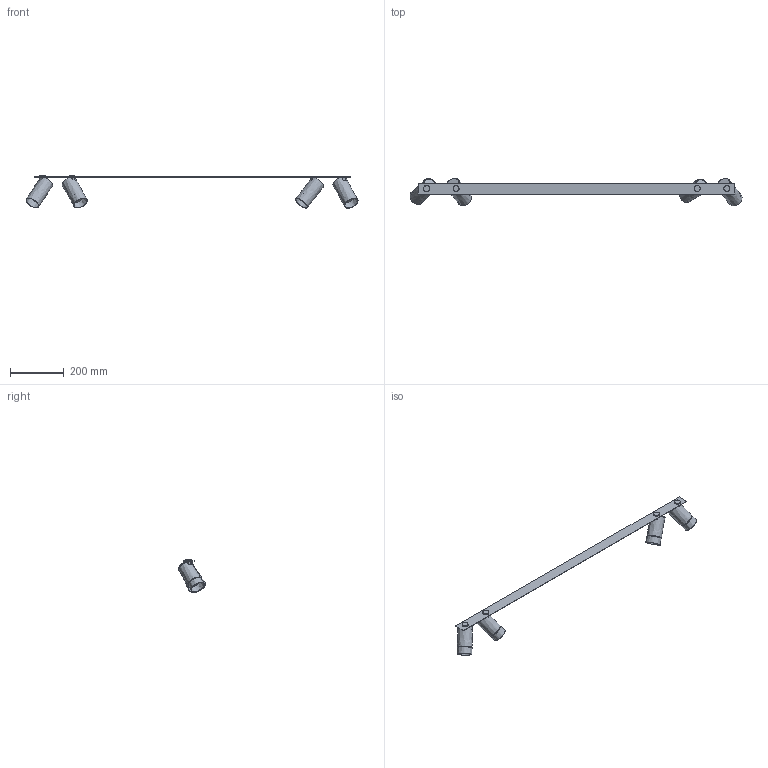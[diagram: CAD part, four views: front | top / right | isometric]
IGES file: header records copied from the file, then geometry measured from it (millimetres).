
Start section: SolidWorks IGES file using NURBS representation for surfaces
Global section: file name: Z:\Modele 3D_WWW\_KOLEKCJE_WWW\MONO\MONO-SURFACE\7747\MONO-SURFACE-IV-BRASS-7747.IGS; native system: SolidWorks 2021; preprocessor: SolidWorks 2021; author: gabriela.tworek; date: 220125.082819; units: millimetre
Bounding box: 1238.37 x 102.15 x 120.74 mm (x, y, z)
Surface area: 281254.8 mm2 (no closed solid volume)
Topology: 0 solids, 0 shells, 170 faces, 1068 edges, 1048 vertices
Faces by surface type: bspline 170
